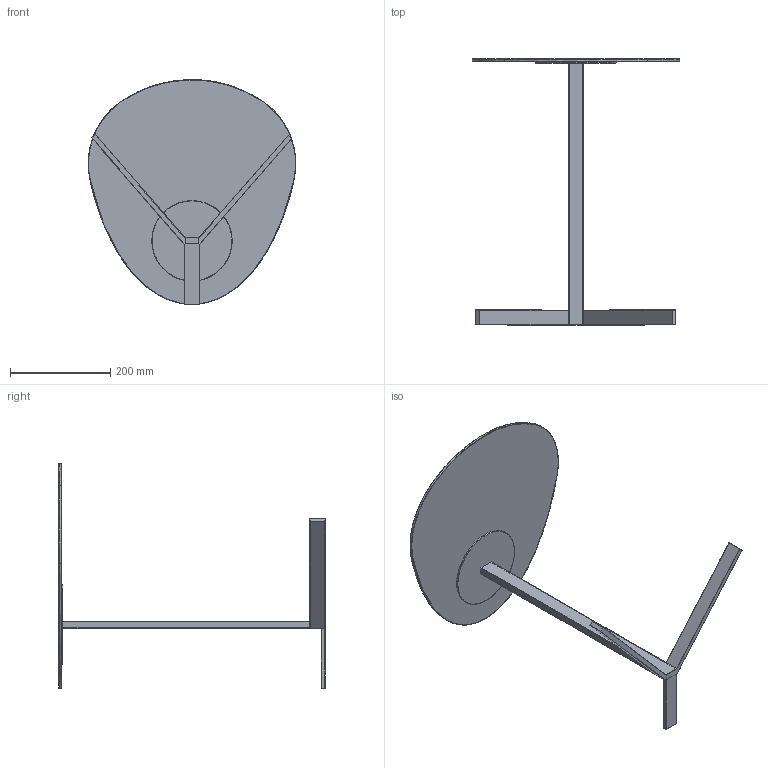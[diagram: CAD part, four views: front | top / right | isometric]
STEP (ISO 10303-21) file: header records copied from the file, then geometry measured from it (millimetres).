
FILE_DESCRIPTION(/* description */ (''),/* implementation_level */ '2;1');
FILE_NAME(/* name */ 'BIRDY_~1',/* time_stamp */ '2020-03-23T13:46:37+01:00',/* author */ (''),/* organization */ (''),/* preprocessor_version */ 'ST-DEVELOPER v15',/* originating_system */ '',/* authorisation */ '');
FILE_SCHEMA (('AUTOMOTIVE_DESIGN'));
Length unit declared in the file: millimetre
Products named in the file (1): Document
Bounding box: 413.43 x 530 x 447.73 mm (x, y, z)
Volume: 60395.5 mm3; surface area: 470099.1 mm2
Topology: 1 solids, 3 shells, 126 faces, 294 edges, 154 vertices
Faces by surface type: bspline 99, plane 27
Entity records: 7393 total; most frequent: CARTESIAN_POINT 5759, ORIENTED_EDGE 546, EDGE_CURVE 282, VERTEX_POINT 154, B_SPLINE_CURVE_WITH_KNOTS 130, EDGE_LOOP 127, ADVANCED_FACE 126, FACE_OUTER_BOUND 126
